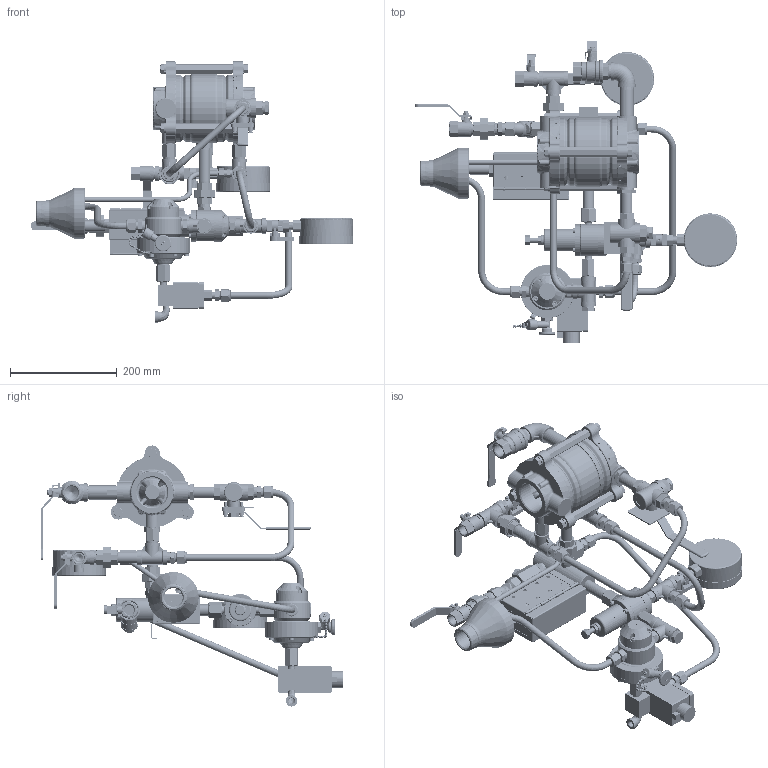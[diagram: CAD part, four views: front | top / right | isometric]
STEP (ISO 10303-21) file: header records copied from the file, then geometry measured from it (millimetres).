
FILE_DESCRIPTION(/* description */ (''),/* implementation_level */ '2;1');
FILE_NAME(/* name */ 'Z:\STANDARD SYSTEM\700DX-04CR05\STEP\711DX-04CR05 FM Trim 2in.stp',/* time_stamp */ '2021-04-08T12:13:41+03:00',/* author */ ('alex'),/* organization */ (''),/* preprocessor_version */ 'ST-DEVELOPER v16.13',/* originating_system */ 'Autodesk Inventor 2018',/* authorisation */ '');
FILE_SCHEMA (('AUTOMOTIVE_DESIGN { 1 0 10303 214 3 1 1 }'));
Length unit declared in the file: inch
Products named in the file (168): 711DX-04CR05 FM Trim 2in; 711DX-2 new; 711D-3; 3141 with 5559_rotated 90; 4138; 5559; 4430; 3970-2 2in; 3970 2in; 4140; 5104; ASME B18.21.1 - 7/16  Regular. Carbon Steel; ANSI/ASME B18.2.1 - 7/16-14 UNC - 1.5; Basic Assy; O'RING INCH; 2074; Nipple 12x3,5 SS; 5375-3; 2072-Opn; 2073-Opn; 2073-1; 2073-2; 2073-3; 2073-4; 2073-4-1; SP-M5-1; 2073-5; 2073-2 with label; Nipple 12x5 SS; 351-08-12; 351-08-12_BODY; 5843-12; DIN 127 - A 8; DIN 934 - M8; DIN 912 - M5 x 8; 351-08-08; 31-08-01; BODY; COVER_31-08-01; Union 12 SS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
Assembly tree (239 placements, depth 6):
  711DX-04CR05 FM Trim 2in
    711DX-2 new
      711D-3
        3141 with 5559_rotated 90
          4138
          4430
          5559
        4430
      3970-2 2in
      3970 2in
      4140  x2
      ANSI/ASME B18.2.1 - 7/16-14 UNC - 1.5  x6
      ASME B18.21.1 - 7/16  Regular. Carbon Steel  x6
      5104  x3
    Basic Assy
      2074
      Nipple 12x3,5 SS
      5375-3
      2072-Opn
        2073-Opn
          2073-1
          2073-2
          2073-3
          2073-4
            2073-4-1
            SP-M5-1  x4
          2073-5
          2073-2 with label
        Nipple 12x5 SS
        351-08-12
          351-08-12_BODY
          5843-12
          DIN 127 - A 8
          DIN 934 - M8
        Nipple 12x2.5 SS
        DIN 912 - M5 x 8  x4
      Nipple 12 hex SS  x3
      351-08-08
        351-08-02_BODY L=67mm
        351-08-01_HANDLE L=58mm
        351-08-01
        351-08-02 Cover L=67 mm
      31-08-01
        BODY
        COVER_31-08-01
      6244-1
        6245-1
        0-RING Ø12xØ3
        DIN 472 - 18 x 1
        BALL OD14mm
        5214_
        6246
        6318
        0-RING2112
      Union 12 SS  x2
        Half Union 12M SS
        Half Union 12F SS
        Half Union F
    Pressure Reducing Pilot
      3494/PA1
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Bounding box: 605.26 x 567.56 x 489.8 mm (x, y, z)
Volume: 4007898.3 mm3; surface area: 1557964.7 mm2
Topology: 228 solids, 229 shells, 6049 faces, 14047 edges, 8701 vertices
Faces by surface type: plane 2674, cone 1446, cylinder 1369, bspline 270, torus 254, sphere 36
Full cylindrical faces by diameter (mm): 0.375 x1, 1.2 x10, 2 x6, 3 x3, 3.242 x5, 4 x21, 4.134 x29, 4.2 x6, 4.3 x2, 4.5 x2, 5 x49, 5.08 x2, 5.2 x24, 5.25 x2, 5.5 x5, 5.8 x4, 6 x7, 6.33 x4, 6.35 x2, 6.4 x4, 6.5 x4, 6.6 x2, 6.604 x1, 6.647 x1, 6.88 x2, 7 x10, 7.036 x3, 7.3 x1, 7.5 x3, 7.515 x4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
Entity records: 130723 total; most frequent: CARTESIAN_POINT 35626, DIRECTION 18712, ORIENTED_EDGE 17142, EDGE_CURVE 8562, AXIS2_PLACEMENT_3D 7533, VERTEX_POINT 5849, EDGE_LOOP 5761, ADVANCED_FACE 4165
